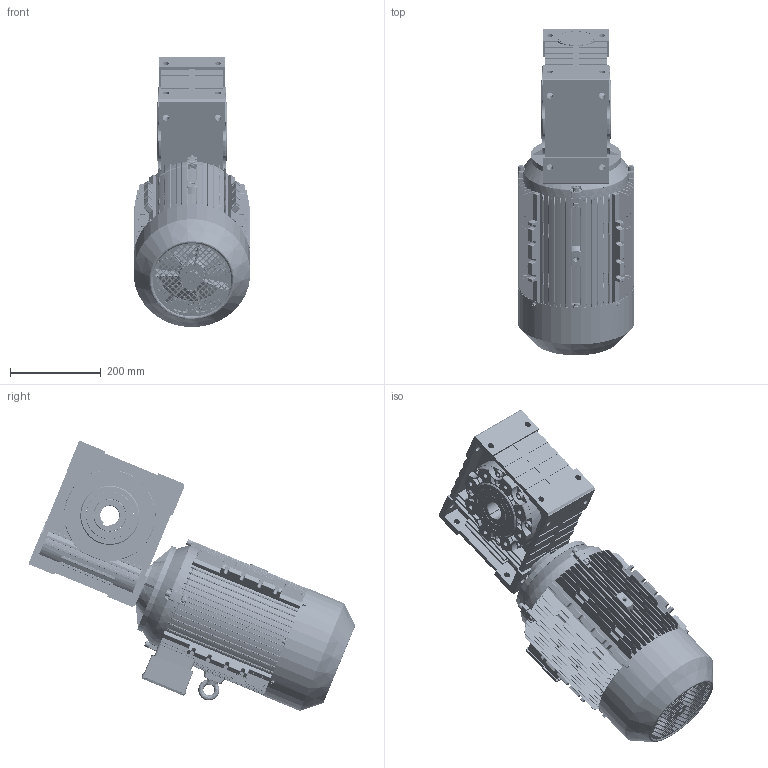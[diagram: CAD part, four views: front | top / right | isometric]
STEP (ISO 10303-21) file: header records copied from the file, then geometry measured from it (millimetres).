
FILE_DESCRIPTION (( 'STEP AP203' ), '1' );
FILE_NAME ('CMRV110_MX3-132M.STEP', '2023-07-21T12:08:00', ( '' ), ( '' ), 'SwSTEP 2.0', 'SolidWorks 2021', '' );
FILE_SCHEMA (( 'CONFIG_CONTROL_DESIGN' ));
Length unit declared in the file: millimetre
Products named in the file (25): DMX-IE3 132 B3 Shield.STEP; CMRV110_B13.STEP; 110____.STEP; CMRV110_MX3-132M; 2_2.STEP; DMX-IE3 Flange.STEP; DMX-IE3 132 casing.STEP; DMX-IE3 132 oil seal.STEP; DMX-IE3 132 terimianl cover.STEP; 110-132B14.STEP; hexagon flange head tapping screws gb_GB_SQUARE_AND_HEXAGON_TYPE137 ST4.8X9.5 C-N.STEP; deep groove ball bearings gb_Rolling bearings 6308 GB 276-94.STEP; MX3-132M_B14.STEP; hexagon socket head cap screws gb_GB_FASTENER_SCREWS_HSHCS M8X40-N.STEP; DMX-IE3 132shaft.STEP; DMX-IE3 132 terminal base.STEP; DMX-IE3 132 fan cover.STEP; eyebolts gb_GB_FASTENER_SCREWS_FRS M10-N.STEP; DMX-IE3 132 fan.STEP; spring lock washers--normal type gb_GB_FASTENER_WASHER_SW 8.STEP; DMX-IE3 132 shaft cover.STEP; 1_2.STEP; hexagon nuts grade c gb_GB_FASTENER_NUT_SNC1 M8-N.STEP; cross recessed pan head screws gb_GB_CROSS_SCREWS_TYPE1 M5X12-12  H type-N.STEP; plain parallel keys_GB_CONNECTING_PIECE_KEYS_CSK 10X70.STEP
Assembly tree (52 placements, depth 3):
  CMRV110_MX3-132M
    CMRV110_B13.STEP
      1_2.STEP
      2_2.STEP
      110-132B14.STEP
      110____.STEP
    MX3-132M_B14.STEP
      DMX-IE3 132 casing.STEP
      DMX-IE3 132 B3 Shield.STEP
      DMX-IE3 132shaft.STEP
      deep groove ball bearings gb_Rolling bearings 6308 GB 276-94.STEP  x2
      DMX-IE3 132 fan.STEP
      DMX-IE3 132 fan cover.STEP
      DMX-IE3 132 terminal base.STEP
      DMX-IE3 132 terimianl cover.STEP
      DMX-IE3 132 shaft cover.STEP  x2
      DMX-IE3 132 oil seal.STEP
      plain parallel keys_GB_CONNECTING_PIECE_KEYS_CSK 10X70.STEP
      eyebolts gb_GB_FASTENER_SCREWS_FRS M10-N.STEP
      spring lock washers--normal type gb_GB_FASTENER_WASHER_SW 8.STEP  x8
      hexagon socket head cap screws gb_GB_FASTENER_SCREWS_HSHCS M8X40-N.STEP  x8
      hexagon nuts grade c gb_GB_FASTENER_NUT_SNC1 M8-N.STEP  x7
      hexagon flange head tapping screws gb_GB_SQUARE_AND_HEXAGON_TYPE137 ST4.8X9.5 C-N.STEP  x4
      cross recessed pan head screws gb_GB_CROSS_SCREWS_TYPE1 M5X12-12  H type-N.STEP  x4
      DMX-IE3 Flange.STEP
Bounding box: 256.22 x 718.64 x 594.08 mm (x, y, z)
Volume: 12544551.3 mm3; surface area: 2604171.4 mm2
Topology: 51 solids, 54 shells, 8509 faces, 21995 edges, 13592 vertices
Faces by surface type: plane 3032, cylinder 2326, bspline 2195, cone 596, torus 242, sphere 118
Entity records: 348570 total; most frequent: CARTESIAN_POINT 171425, ORIENTED_EDGE 40156, DIRECTION 30557, EDGE_CURVE 20078, VERTEX_POINT 12494, AXIS2_PLACEMENT_3D 10879, LINE 8799, VECTOR 8799
